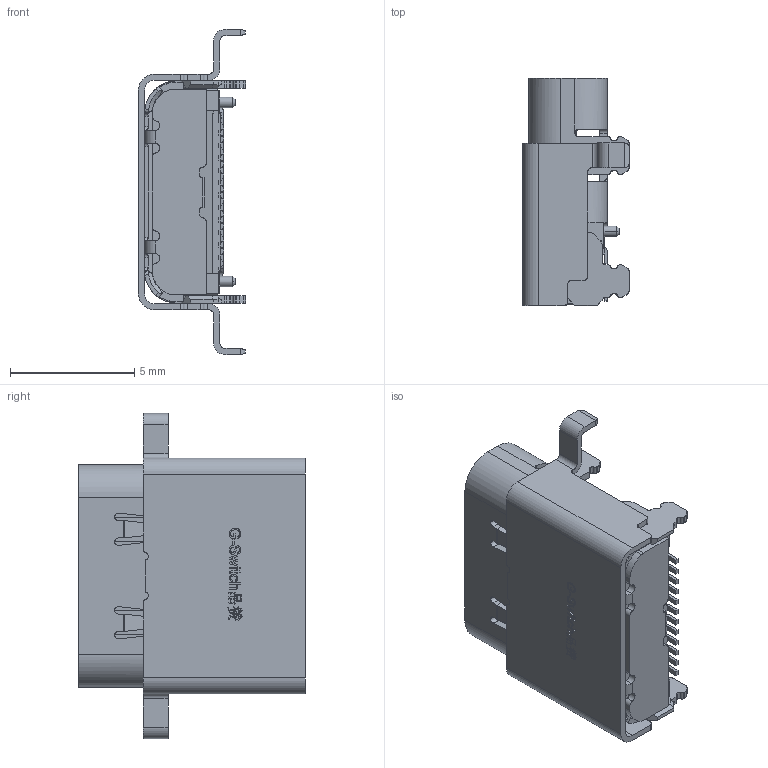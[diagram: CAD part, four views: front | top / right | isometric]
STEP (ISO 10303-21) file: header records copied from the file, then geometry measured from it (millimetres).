
FILE_DESCRIPTION (( 'STEP AP203' ), '1' );
FILE_NAME ('GT-USB-7088B.STEP', '2023-05-25T03:49:57', ( '' ), ( '' ), 'SwSTEP 2.0', 'SolidWorks 2023', '' );
FILE_SCHEMA (( 'CONFIG_CONTROL_DESIGN' ));
Length unit declared in the file: millimetre
Products named in the file (4): GT-USB-7088B; S-12FS4-R03.STEP; 1.57 Main.STEP; GT-USB-7088B.STEP
Assembly tree (3 placements, depth 3):
  GT-USB-7088B
    GT-USB-7088B.STEP
      1.57 Main.STEP
      S-12FS4-R03.STEP
Bounding box: 4.31 x 9.12 x 13.08 mm (x, y, z)
Volume: 158.2 mm3; surface area: 811.1 mm2
Topology: 2 solids, 48 shells, 1994 faces, 5519 edges, 3625 vertices
Faces by surface type: plane 1370, cylinder 472, bspline 124, cone 28
Entity records: 69191 total; most frequent: CARTESIAN_POINT 19653, ORIENTED_EDGE 11038, DIRECTION 8909, EDGE_CURVE 5519, VECTOR 3997, LINE 3997, VERTEX_POINT 3625, AXIS2_PLACEMENT_3D 2456
